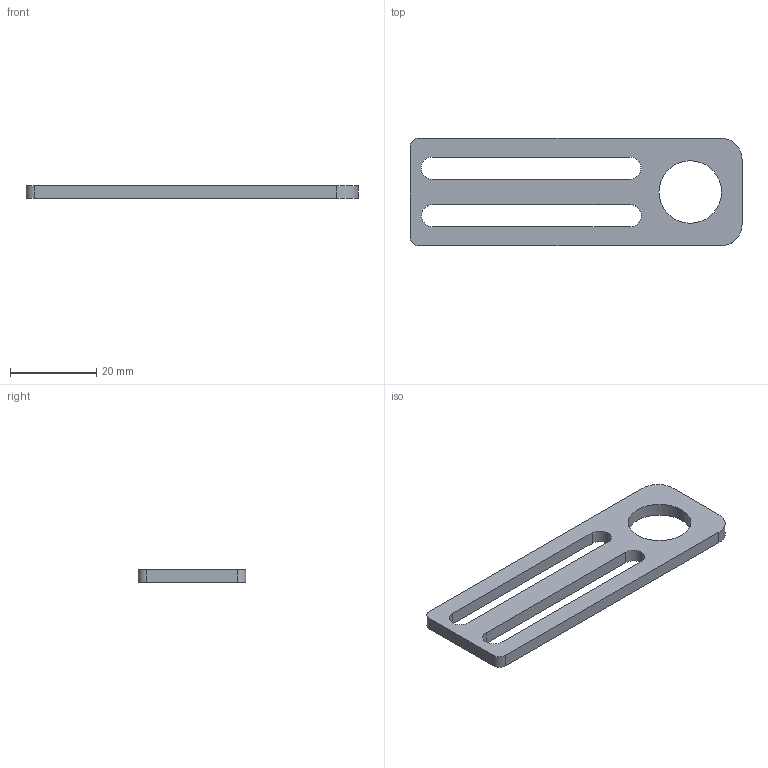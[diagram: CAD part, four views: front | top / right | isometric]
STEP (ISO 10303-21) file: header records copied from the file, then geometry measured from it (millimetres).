
FILE_DESCRIPTION( ( 'STEP AP214' ), '1' );
FILE_NAME( 'C:/Users/Segreteria/Desktop/CA.04.20.14.stp', '2014-07-11T13:01:01', ( ' ' ), ( ' ' ), 'XStep 1.0', ' ', ' ' );
FILE_SCHEMA( ( 'CONFIG_CONTROL_DESIGN) ( )' ) );
Length unit declared in the file: metre
Products named in the file (2): Assem1; 04.20.14
Bounding box: 77 x 25 x 3 mm (x, y, z)
Surface area: 7671 mm2
Topology: 2 solids, 2 shells, 38 faces, 102 edges, 68 vertices
Faces by surface type: plane 20, cylinder 18
Full cylindrical faces by diameter (mm): 14.5 x2
Entity records: 765 total; most frequent: DIRECTION 110, CARTESIAN_POINT 105, ORIENTED_EDGE 100, EDGE_CURVE 50, AXIS2_PLACEMENT_3D 39, VERTEX_POINT 34, LINE 32, VECTOR 32
